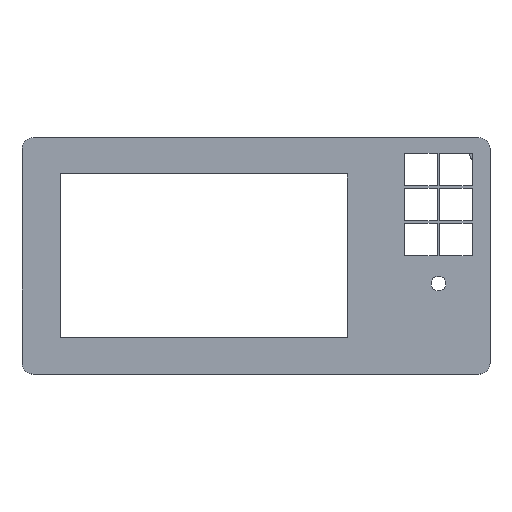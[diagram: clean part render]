
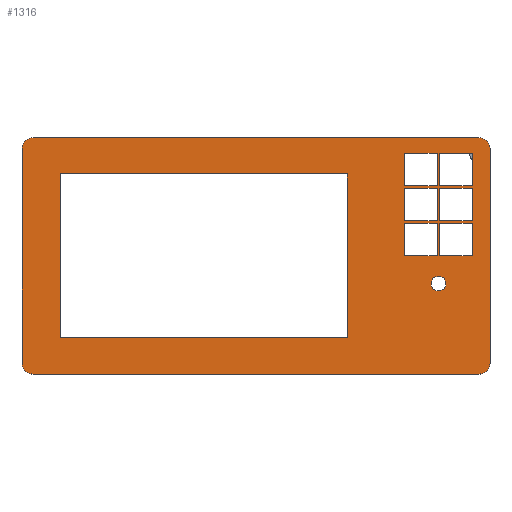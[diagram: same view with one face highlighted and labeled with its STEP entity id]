
A CAD part, top view. The second image highlights one B-rep face of the part: STEP entity #1316.
In plain terms, the highlighted planar face has unit normal (0, 0, 1).
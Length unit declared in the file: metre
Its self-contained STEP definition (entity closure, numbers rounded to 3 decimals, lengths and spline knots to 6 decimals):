
#31=CIRCLE('',#1403,0.006);
#32=CIRCLE('',#1404,0.006);
#33=CIRCLE('',#1405,0.006);
#34=CIRCLE('',#1406,0.006);
#35=CIRCLE('',#1407,0.004);
#72=ORIENTED_EDGE('',*,*,#446,.F.);
#73=ORIENTED_EDGE('',*,*,#447,.F.);
#74=ORIENTED_EDGE('',*,*,#448,.T.);
#75=ORIENTED_EDGE('',*,*,#449,.T.);
#76=ORIENTED_EDGE('',*,*,#450,.F.);
#77=ORIENTED_EDGE('',*,*,#451,.F.);
#78=ORIENTED_EDGE('',*,*,#452,.T.);
#79=ORIENTED_EDGE('',*,*,#453,.T.);
#80=ORIENTED_EDGE('',*,*,#454,.F.);
#81=ORIENTED_EDGE('',*,*,#455,.F.);
#82=ORIENTED_EDGE('',*,*,#456,.T.);
#83=ORIENTED_EDGE('',*,*,#457,.T.);
#84=ORIENTED_EDGE('',*,*,#458,.F.);
#85=ORIENTED_EDGE('',*,*,#459,.F.);
#86=ORIENTED_EDGE('',*,*,#460,.T.);
#87=ORIENTED_EDGE('',*,*,#461,.T.);
#88=ORIENTED_EDGE('',*,*,#462,.F.);
#89=ORIENTED_EDGE('',*,*,#463,.F.);
#90=ORIENTED_EDGE('',*,*,#464,.T.);
#91=ORIENTED_EDGE('',*,*,#465,.T.);
#92=ORIENTED_EDGE('',*,*,#466,.F.);
#93=ORIENTED_EDGE('',*,*,#467,.F.);
#94=ORIENTED_EDGE('',*,*,#468,.T.);
#95=ORIENTED_EDGE('',*,*,#469,.T.);
#96=ORIENTED_EDGE('',*,*,#470,.F.);
#97=ORIENTED_EDGE('',*,*,#471,.T.);
#98=ORIENTED_EDGE('',*,*,#472,.F.);
#99=ORIENTED_EDGE('',*,*,#473,.T.);
#100=ORIENTED_EDGE('',*,*,#474,.T.);
#101=ORIENTED_EDGE('',*,*,#475,.T.);
#102=ORIENTED_EDGE('',*,*,#476,.T.);
#103=ORIENTED_EDGE('',*,*,#477,.T.);
#104=ORIENTED_EDGE('',*,*,#478,.F.);
#105=ORIENTED_EDGE('',*,*,#479,.F.);
#106=ORIENTED_EDGE('',*,*,#480,.T.);
#107=ORIENTED_EDGE('',*,*,#481,.T.);
#108=ORIENTED_EDGE('',*,*,#482,.T.);
#446=EDGE_CURVE('',#633,#634,#762,.T.);
#447=EDGE_CURVE('',#635,#633,#763,.T.);
#448=EDGE_CURVE('',#635,#636,#764,.T.);
#449=EDGE_CURVE('',#636,#634,#765,.T.);
#450=EDGE_CURVE('',#637,#638,#766,.T.);
#451=EDGE_CURVE('',#639,#637,#767,.T.);
#452=EDGE_CURVE('',#639,#640,#768,.T.);
#453=EDGE_CURVE('',#640,#638,#769,.T.);
#454=EDGE_CURVE('',#641,#642,#770,.T.);
#455=EDGE_CURVE('',#643,#641,#771,.T.);
#456=EDGE_CURVE('',#643,#644,#772,.T.);
#457=EDGE_CURVE('',#644,#642,#773,.T.);
#458=EDGE_CURVE('',#645,#646,#774,.T.);
#459=EDGE_CURVE('',#647,#645,#775,.T.);
#460=EDGE_CURVE('',#647,#648,#776,.T.);
#461=EDGE_CURVE('',#648,#646,#777,.T.);
#462=EDGE_CURVE('',#649,#650,#778,.T.);
#463=EDGE_CURVE('',#651,#649,#779,.T.);
#464=EDGE_CURVE('',#651,#652,#780,.T.);
#465=EDGE_CURVE('',#652,#650,#781,.T.);
#466=EDGE_CURVE('',#653,#654,#782,.T.);
#467=EDGE_CURVE('',#655,#653,#783,.T.);
#468=EDGE_CURVE('',#655,#656,#784,.T.);
#469=EDGE_CURVE('',#656,#654,#785,.T.);
#470=EDGE_CURVE('',#657,#658,#786,.T.);
#471=EDGE_CURVE('',#657,#659,#31,.T.);
#472=EDGE_CURVE('',#660,#659,#787,.T.);
#473=EDGE_CURVE('',#660,#661,#32,.T.);
#474=EDGE_CURVE('',#661,#662,#788,.T.);
#475=EDGE_CURVE('',#662,#663,#33,.T.);
#476=EDGE_CURVE('',#663,#664,#789,.T.);
#477=EDGE_CURVE('',#664,#658,#34,.T.);
#478=EDGE_CURVE('',#665,#666,#790,.T.);
#479=EDGE_CURVE('',#667,#665,#791,.T.);
#480=EDGE_CURVE('',#667,#668,#792,.T.);
#481=EDGE_CURVE('',#668,#666,#793,.T.);
#482=EDGE_CURVE('',#669,#669,#35,.F.);
#633=VERTEX_POINT('',#1895);
#634=VERTEX_POINT('',#1896);
#635=VERTEX_POINT('',#1898);
#636=VERTEX_POINT('',#1900);
#637=VERTEX_POINT('',#1903);
#638=VERTEX_POINT('',#1904);
#639=VERTEX_POINT('',#1906);
#640=VERTEX_POINT('',#1908);
#641=VERTEX_POINT('',#1911);
#642=VERTEX_POINT('',#1912);
#643=VERTEX_POINT('',#1914);
#644=VERTEX_POINT('',#1916);
#645=VERTEX_POINT('',#1919);
#646=VERTEX_POINT('',#1920);
#647=VERTEX_POINT('',#1922);
#648=VERTEX_POINT('',#1924);
#649=VERTEX_POINT('',#1927);
#650=VERTEX_POINT('',#1928);
#651=VERTEX_POINT('',#1930);
#652=VERTEX_POINT('',#1932);
#653=VERTEX_POINT('',#1935);
#654=VERTEX_POINT('',#1936);
#655=VERTEX_POINT('',#1938);
#656=VERTEX_POINT('',#1940);
#657=VERTEX_POINT('',#1943);
#658=VERTEX_POINT('',#1944);
#659=VERTEX_POINT('',#1946);
#660=VERTEX_POINT('',#1948);
#661=VERTEX_POINT('',#1950);
#662=VERTEX_POINT('',#1952);
#663=VERTEX_POINT('',#1954);
#664=VERTEX_POINT('',#1956);
#665=VERTEX_POINT('',#1959);
#666=VERTEX_POINT('',#1960);
#667=VERTEX_POINT('',#1962);
#668=VERTEX_POINT('',#1964);
#669=VERTEX_POINT('',#1967);
#762=LINE('',#1894,#908);
#763=LINE('',#1897,#909);
#764=LINE('',#1899,#910);
#765=LINE('',#1901,#911);
#766=LINE('',#1902,#912);
#767=LINE('',#1905,#913);
#768=LINE('',#1907,#914);
#769=LINE('',#1909,#915);
#770=LINE('',#1910,#916);
#771=LINE('',#1913,#917);
#772=LINE('',#1915,#918);
#773=LINE('',#1917,#919);
#774=LINE('',#1918,#920);
#775=LINE('',#1921,#921);
#776=LINE('',#1923,#922);
#777=LINE('',#1925,#923);
#778=LINE('',#1926,#924);
#779=LINE('',#1929,#925);
#780=LINE('',#1931,#926);
#781=LINE('',#1933,#927);
#782=LINE('',#1934,#928);
#783=LINE('',#1937,#929);
#784=LINE('',#1939,#930);
#785=LINE('',#1941,#931);
#786=LINE('',#1942,#932);
#787=LINE('',#1947,#933);
#788=LINE('',#1951,#934);
#789=LINE('',#1955,#935);
#790=LINE('',#1958,#936);
#791=LINE('',#1961,#937);
#792=LINE('',#1963,#938);
#793=LINE('',#1965,#939);
#908=VECTOR('',#1520,1.);
#909=VECTOR('',#1521,1.);
#910=VECTOR('',#1522,1.);
#911=VECTOR('',#1523,1.);
#912=VECTOR('',#1524,1.);
#913=VECTOR('',#1525,1.);
#914=VECTOR('',#1526,1.);
#915=VECTOR('',#1527,1.);
#916=VECTOR('',#1528,1.);
#917=VECTOR('',#1529,1.);
#918=VECTOR('',#1530,1.);
#919=VECTOR('',#1531,1.);
#920=VECTOR('',#1532,1.);
#921=VECTOR('',#1533,1.);
#922=VECTOR('',#1534,1.);
#923=VECTOR('',#1535,1.);
#924=VECTOR('',#1536,1.);
#925=VECTOR('',#1537,1.);
#926=VECTOR('',#1538,1.);
#927=VECTOR('',#1539,1.);
#928=VECTOR('',#1540,1.);
#929=VECTOR('',#1541,1.);
#930=VECTOR('',#1542,1.);
#931=VECTOR('',#1543,1.);
#932=VECTOR('',#1544,1.);
#933=VECTOR('',#1547,1.);
#934=VECTOR('',#1550,1.);
#935=VECTOR('',#1553,1.);
#936=VECTOR('',#1556,1.);
#937=VECTOR('',#1557,1.);
#938=VECTOR('',#1558,1.);
#939=VECTOR('',#1559,1.);
#1054=EDGE_LOOP('',(#72,#73,#74,#75));
#1055=EDGE_LOOP('',(#76,#77,#78,#79));
#1056=EDGE_LOOP('',(#80,#81,#82,#83));
#1057=EDGE_LOOP('',(#84,#85,#86,#87));
#1058=EDGE_LOOP('',(#88,#89,#90,#91));
#1059=EDGE_LOOP('',(#92,#93,#94,#95));
#1060=EDGE_LOOP('',(#96,#97,#98,#99,#100,#101,#102,#103));
#1061=EDGE_LOOP('',(#104,#105,#106,#107));
#1062=EDGE_LOOP('',(#108));
#1158=FACE_BOUND('',#1054,.T.);
#1159=FACE_BOUND('',#1055,.T.);
#1160=FACE_BOUND('',#1056,.T.);
#1161=FACE_BOUND('',#1057,.T.);
#1162=FACE_BOUND('',#1058,.T.);
#1163=FACE_BOUND('',#1059,.T.);
#1164=FACE_BOUND('',#1060,.T.);
#1165=FACE_BOUND('',#1061,.T.);
#1166=FACE_BOUND('',#1062,.T.);
#1262=PLANE('',#1402);
#1316=ADVANCED_FACE('',(#1158,#1159,#1160,#1161,#1162,#1163,#1164,#1165,
#1166),#1262,.T.);
#1402=AXIS2_PLACEMENT_3D('',#1893,#1518,#1519);
#1403=AXIS2_PLACEMENT_3D('',#1945,#1545,#1546);
#1404=AXIS2_PLACEMENT_3D('',#1949,#1548,#1549);
#1405=AXIS2_PLACEMENT_3D('',#1953,#1551,#1552);
#1406=AXIS2_PLACEMENT_3D('',#1957,#1554,#1555);
#1407=AXIS2_PLACEMENT_3D('',#1966,#1560,#1561);
#1518=DIRECTION('',(0.,0.,1.));
#1519=DIRECTION('',(1.,0.,0.));
#1520=DIRECTION('',(0.,-1.,0.));
#1521=DIRECTION('',(-1.,0.,0.));
#1522=DIRECTION('',(0.,-1.,0.));
#1523=DIRECTION('',(-1.,0.,0.));
#1524=DIRECTION('',(0.,-1.,0.));
#1525=DIRECTION('',(-1.,0.,0.));
#1526=DIRECTION('',(0.,-1.,0.));
#1527=DIRECTION('',(-1.,0.,0.));
#1528=DIRECTION('',(0.,-1.,0.));
#1529=DIRECTION('',(-1.,0.,0.));
#1530=DIRECTION('',(0.,-1.,0.));
#1531=DIRECTION('',(-1.,0.,0.));
#1532=DIRECTION('',(0.,-1.,0.));
#1533=DIRECTION('',(-1.,0.,0.));
#1534=DIRECTION('',(0.,-1.,0.));
#1535=DIRECTION('',(-1.,0.,0.));
#1536=DIRECTION('',(0.,-1.,0.));
#1537=DIRECTION('',(-1.,0.,0.));
#1538=DIRECTION('',(0.,-1.,0.));
#1539=DIRECTION('',(-1.,0.,0.));
#1540=DIRECTION('',(0.,-1.,0.));
#1541=DIRECTION('',(-1.,0.,0.));
#1542=DIRECTION('',(0.,-1.,0.));
#1543=DIRECTION('',(-1.,0.,0.));
#1544=DIRECTION('',(1.,0.,0.));
#1545=DIRECTION('',(0.,0.,1.));
#1546=DIRECTION('',(1.,0.,0.));
#1547=DIRECTION('',(0.,1.,0.));
#1548=DIRECTION('',(0.,0.,1.));
#1549=DIRECTION('',(1.,0.,0.));
#1550=DIRECTION('',(1.,0.,0.));
#1551=DIRECTION('',(0.,0.,1.));
#1552=DIRECTION('',(1.,0.,0.));
#1553=DIRECTION('',(0.,1.,0.));
#1554=DIRECTION('',(0.,0.,1.));
#1555=DIRECTION('',(1.,0.,0.));
#1556=DIRECTION('',(0.,-1.,0.));
#1557=DIRECTION('',(-1.,0.,0.));
#1558=DIRECTION('',(0.,-1.,0.));
#1559=DIRECTION('',(-1.,0.,0.));
#1560=DIRECTION('',(0.,0.,1.));
#1561=DIRECTION('',(1.,0.,0.));
#1893=CARTESIAN_POINT('',(0.127,0.06412,0.0188));
#1894=CARTESIAN_POINT('',(0.2077,0.06412,0.0188));
#1895=CARTESIAN_POINT('',(0.2077,0.11992,0.0188));
#1896=CARTESIAN_POINT('',(0.2077,0.10232,0.0188));
#1897=CARTESIAN_POINT('',(0.127,0.11992,0.0188));
#1898=CARTESIAN_POINT('',(0.2253,0.11992,0.0188));
#1899=CARTESIAN_POINT('',(0.2253,0.06412,0.0188));
#1900=CARTESIAN_POINT('',(0.2253,0.10232,0.0188));
#1901=CARTESIAN_POINT('',(0.127,0.10232,0.0188));
#1902=CARTESIAN_POINT('',(0.2267,0.06412,0.0188));
#1903=CARTESIAN_POINT('',(0.2267,0.11992,0.0188));
#1904=CARTESIAN_POINT('',(0.2267,0.10232,0.0188));
#1905=CARTESIAN_POINT('',(0.127,0.11992,0.0188));
#1906=CARTESIAN_POINT('',(0.2443,0.11992,0.0188));
#1907=CARTESIAN_POINT('',(0.2443,0.06412,0.0188));
#1908=CARTESIAN_POINT('',(0.2443,0.10232,0.0188));
#1909=CARTESIAN_POINT('',(0.127,0.10232,0.0188));
#1910=CARTESIAN_POINT('',(0.2077,0.06412,0.0188));
#1911=CARTESIAN_POINT('',(0.2077,0.10092,0.0188));
#1912=CARTESIAN_POINT('',(0.2077,0.08332,0.0188));
#1913=CARTESIAN_POINT('',(0.127,0.10092,0.0188));
#1914=CARTESIAN_POINT('',(0.2253,0.10092,0.0188));
#1915=CARTESIAN_POINT('',(0.2253,0.06412,0.0188));
#1916=CARTESIAN_POINT('',(0.2253,0.08332,0.0188));
#1917=CARTESIAN_POINT('',(0.127,0.08332,0.0188));
#1918=CARTESIAN_POINT('',(0.2267,0.06412,0.0188));
#1919=CARTESIAN_POINT('',(0.2267,0.10092,0.0188));
#1920=CARTESIAN_POINT('',(0.2267,0.08332,0.0188));
#1921=CARTESIAN_POINT('',(0.127,0.10092,0.0188));
#1922=CARTESIAN_POINT('',(0.2443,0.10092,0.0188));
#1923=CARTESIAN_POINT('',(0.2443,0.06412,0.0188));
#1924=CARTESIAN_POINT('',(0.2443,0.08332,0.0188));
#1925=CARTESIAN_POINT('',(0.127,0.08332,0.0188));
#1926=CARTESIAN_POINT('',(0.2077,0.06412,0.0188));
#1927=CARTESIAN_POINT('',(0.2077,0.08192,0.0188));
#1928=CARTESIAN_POINT('',(0.2077,0.06432,0.0188));
#1929=CARTESIAN_POINT('',(0.127,0.08192,0.0188));
#1930=CARTESIAN_POINT('',(0.2253,0.08192,0.0188));
#1931=CARTESIAN_POINT('',(0.2253,0.06412,0.0188));
#1932=CARTESIAN_POINT('',(0.2253,0.06432,0.0188));
#1933=CARTESIAN_POINT('',(0.127,0.06432,0.0188));
#1934=CARTESIAN_POINT('',(0.2267,0.06412,0.0188));
#1935=CARTESIAN_POINT('',(0.2267,0.08192,0.0188));
#1936=CARTESIAN_POINT('',(0.2267,0.06432,0.0188));
#1937=CARTESIAN_POINT('',(0.127,0.08192,0.0188));
#1938=CARTESIAN_POINT('',(0.2443,0.08192,0.0188));
#1939=CARTESIAN_POINT('',(0.2443,0.06412,0.0188));
#1940=CARTESIAN_POINT('',(0.2443,0.06432,0.0188));
#1941=CARTESIAN_POINT('',(0.127,0.06432,0.0188));
#1942=CARTESIAN_POINT('',(0.127,0.12824,0.0188));
#1943=CARTESIAN_POINT('',(0.006,0.12824,0.0188));
#1944=CARTESIAN_POINT('',(0.248,0.12824,0.0188));
#1945=CARTESIAN_POINT('',(0.006,0.12224,0.0188));
#1946=CARTESIAN_POINT('',(0.,0.12224,0.0188));
#1947=CARTESIAN_POINT('',(0.,0.06412,0.0188));
#1948=CARTESIAN_POINT('',(0.,0.006,0.0188));
#1949=CARTESIAN_POINT('',(0.006,0.006,0.0188));
#1950=CARTESIAN_POINT('',(0.006,0.,0.0188));
#1951=CARTESIAN_POINT('',(0.127,0.,0.0188));
#1952=CARTESIAN_POINT('',(0.248,0.,0.0188));
#1953=CARTESIAN_POINT('',(0.248,0.006,0.0188));
#1954=CARTESIAN_POINT('',(0.254,0.006,0.0188));
#1955=CARTESIAN_POINT('',(0.254,0.06412,0.0188));
#1956=CARTESIAN_POINT('',(0.254,0.12224,0.0188));
#1957=CARTESIAN_POINT('',(0.248,0.12224,0.0188));
#1958=CARTESIAN_POINT('',(0.02066,0.06412,0.0188));
#1959=CARTESIAN_POINT('',(0.02066,0.10862,0.0188));
#1960=CARTESIAN_POINT('',(0.02066,0.01962,0.0188));
#1961=CARTESIAN_POINT('',(0.127,0.10862,0.0188));
#1962=CARTESIAN_POINT('',(0.17666,0.10862,0.0188));
#1963=CARTESIAN_POINT('',(0.17666,0.06412,0.0188));
#1964=CARTESIAN_POINT('',(0.17666,0.01962,0.0188));
#1965=CARTESIAN_POINT('',(0.127,0.01962,0.0188));
#1966=CARTESIAN_POINT('',(0.226,0.04912,0.0188));
#1967=CARTESIAN_POINT('',(0.23,0.04912,0.0188));
